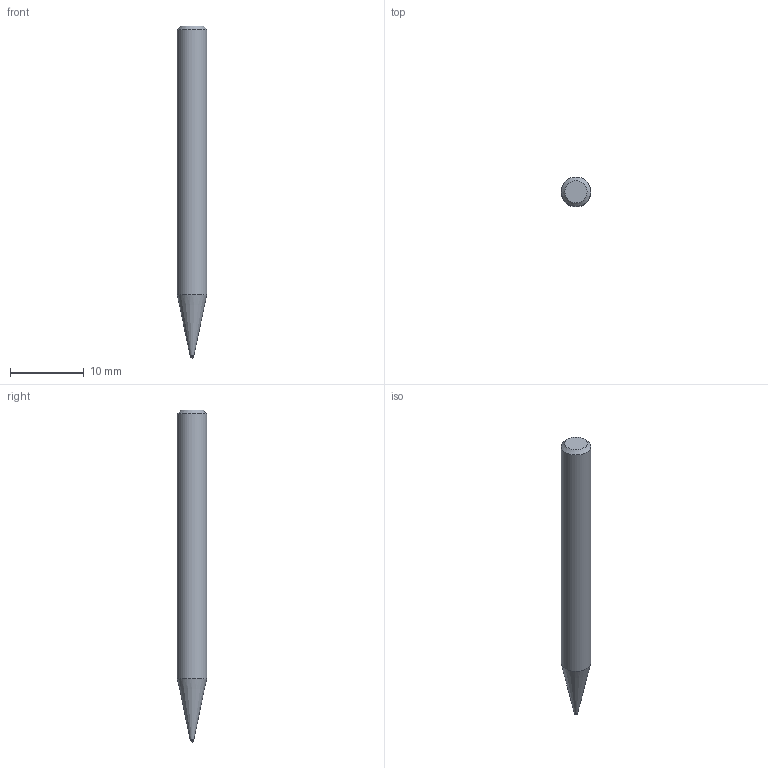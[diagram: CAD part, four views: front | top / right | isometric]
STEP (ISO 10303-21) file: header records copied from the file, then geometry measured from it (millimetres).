
FILE_DESCRIPTION((''),'2;1');
FILE_NAME('C:\Users\nsx150\AppData\Local\Temp\Mastercam 2021\ARV7HD45SN\TEMP.step','2023-06-13T16:33:13',(''),(''),'STEP Write','Mastercam 2021 ... CNC Software, Inc.','');
FILE_SCHEMA(('AUTOMOTIVE_DESIGN'));
Length unit declared in the file: millimetre
Products named in the file (1): None
Bounding box: 4 x 4 x 45 mm (x, y, z)
Volume: 495.6 mm3; surface area: 526.6 mm2
Topology: 2 solids, 2 shells, 8 faces, 12 edges, 7 vertices
Faces by surface type: plane 3, cylinder 2, cone 2, sphere 1
Full cylindrical faces by diameter (mm): 0.5 x1, 4 x1
Entity records: 190 total; most frequent: DIRECTION 32, CARTESIAN_POINT 22, AXIS2_PLACEMENT_3D 16, ORIENTED_EDGE 12, EDGE_LOOP 12, STYLED_ITEM 11, ADVANCED_FACE 8, VERTEX_POINT 6
